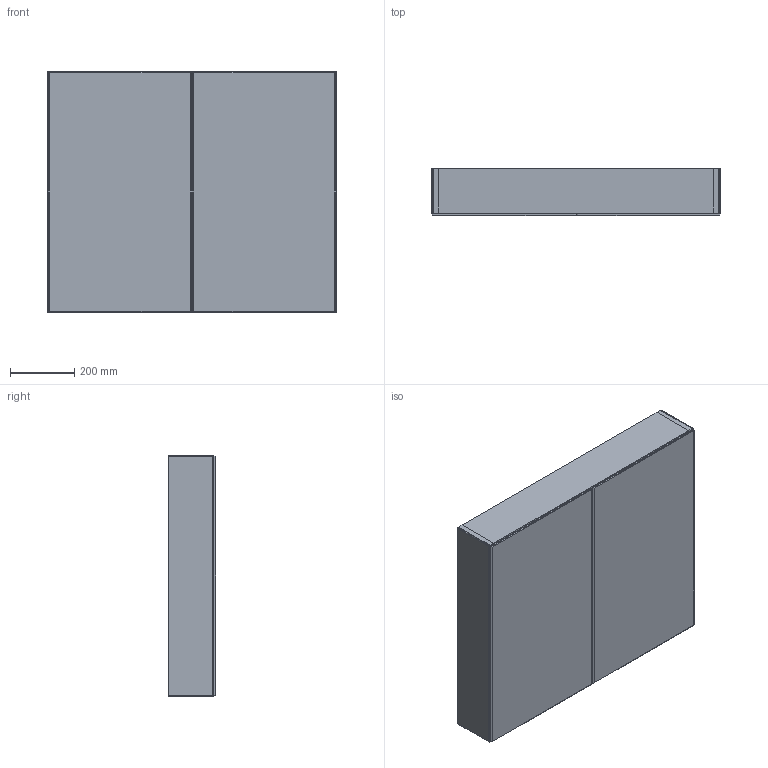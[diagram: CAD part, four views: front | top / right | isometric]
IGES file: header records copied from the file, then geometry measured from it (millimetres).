
Start section: Data from Parasolid IGES Translator 19.0.9, Copyright(c) 2006 Siemens PL M Software. All Rights Reserved.
Global section: file name: noorth-mirror-H 75 D 14,7 W 90_9062.igs; native system: By Siemens PLM Incorporated; preprocessor: XPlus GENERIC/IGES 19.0.9; author: Noname; organization: Noname; date: 20200519.095638; units: metre
Bounding box: 899.82 x 147 x 750 mm (x, y, z)
Volume: 15593039.7 mm3; surface area: 4563904.3 mm2
Topology: 12 solids, 12 shells, 196 faces, 372 edges, 200 vertices
Faces by surface type: plane 196
